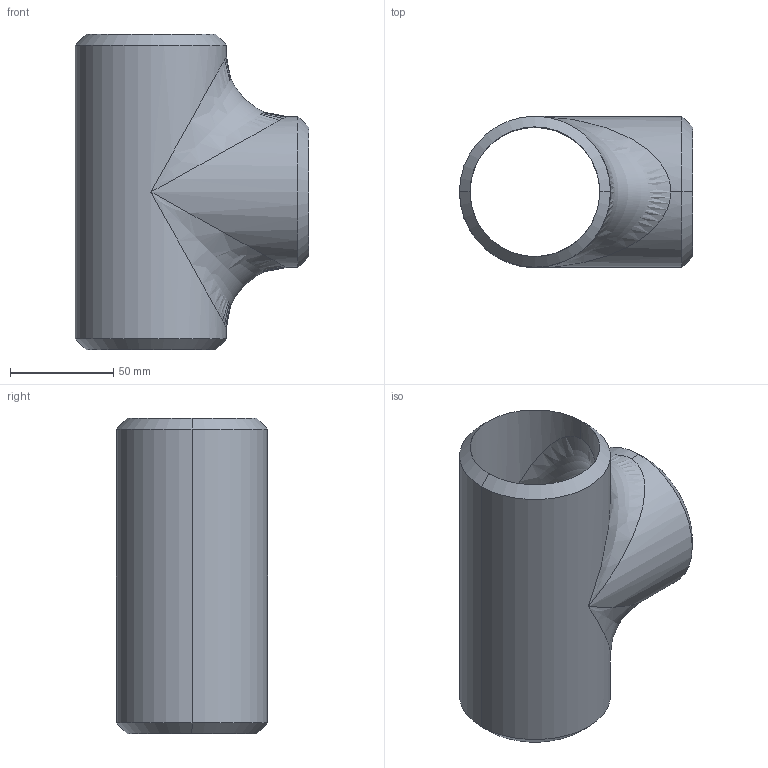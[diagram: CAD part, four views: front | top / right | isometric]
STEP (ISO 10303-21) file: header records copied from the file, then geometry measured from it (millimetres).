
FILE_DESCRIPTION (( 'STEP AP203' ), '1' );
FILE_NAME ('3D_R266_2 1-2x40S_173445160.STEP', '2024-08-23T10:59:57', ( '' ), ( '' ), 'SwSTEP 2.0', 'SolidWorks 2024', '' );
FILE_SCHEMA (( 'CONFIG_CONTROL_DESIGN' ));
Length unit declared in the file: millimetre
Products named in the file (1): 3D_R266_2 1-2x40S_173445160
Bounding box: 112.7 x 73 x 152.4 mm (x, y, z)
Volume: 192409.2 mm3; surface area: 79019.5 mm2
Topology: 1 solids, 1 shells, 21 faces, 58 edges, 30 vertices
Faces by surface type: cylinder 8, cone 6, bspline 4, plane 3
Entity records: 1363 total; most frequent: CARTESIAN_POINT 842, ORIENTED_EDGE 100, DIRECTION 88, EDGE_CURVE 50, AXIS2_PLACEMENT_3D 36, VERTEX_POINT 30, EDGE_LOOP 24, FACE_OUTER_BOUND 21
